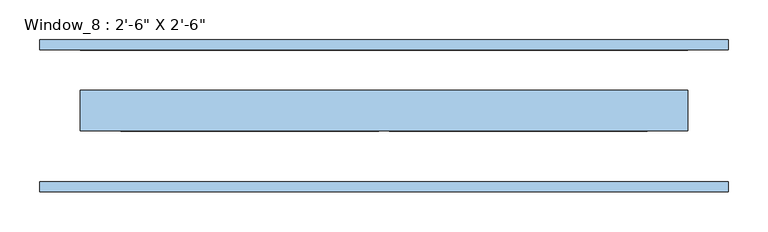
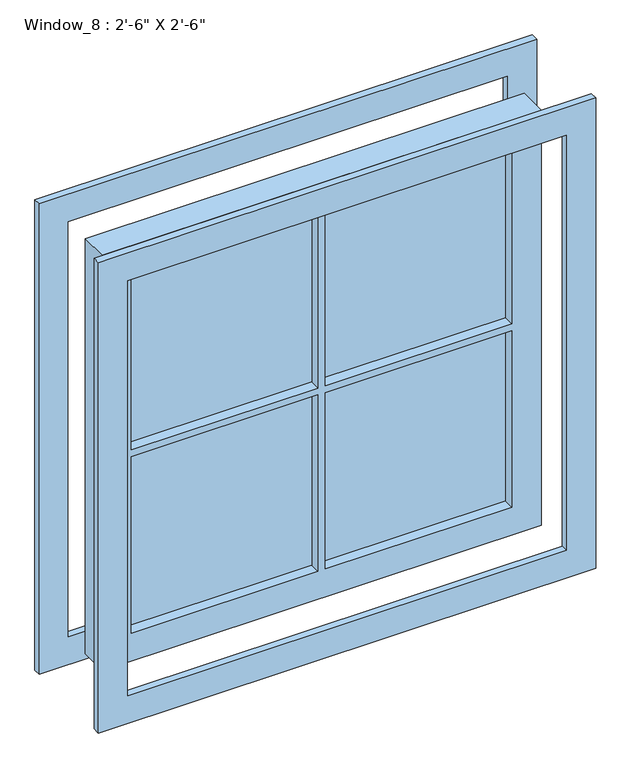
"""IFC4 building model written with IfcOpenShell, lengths in millimetres: window geometry."""

from ifc_helpers import new_model, si_unit, frame, origin, place, context, project, spatial, polyline, outline, extrude, source, transform, mapped, element, save


def window_352ad0ef(model_context):
    return source(origin(), model_context, "Body", "SweptSolid", [
        extrude(outline(polyline([(342.9, 0.0), (19.05, 0.0), (19.05, 12.7), (342.9, 12.7), (342.9, 0.0)])), frame((0.0, 0.0, 863.6), z_axis=(0.0, 0.0, 1.0), x_axis=(1.0, 0.0, 0.0)), (0.0, 0.0, 1.0), 323.85),
        extrude(outline(polyline([(342.9, 0.0), (19.05, 0.0), (19.05, 12.7), (342.9, 12.7), (342.9, 0.0)])), frame((0.0, 0.0, 1200.15), z_axis=(0.0, 0.0, 1.0), x_axis=(1.0, 0.0, 0.0)), (0.0, 0.0, 1.0), 323.85),
        extrude(outline(polyline([(6.35, 0.0), (-317.5, 0.0), (-317.5, 12.7), (6.35, 12.7), (6.35, 0.0)])), frame((0.0, 0.0, 1200.15), z_axis=(0.0, 0.0, 1.0), x_axis=(1.0, 0.0, 0.0)), (0.0, 0.0, 1.0), 323.85),
        extrude(outline(polyline([(6.35, 0.0), (-317.5, 0.0), (-317.5, 12.7), (6.35, 12.7), (6.35, 0.0)])), frame((0.0, 0.0, 863.6), z_axis=(0.0, 0.0, 1.0), x_axis=(1.0, 0.0, 0.0)), (0.0, 0.0, 1.0), 323.85),
        extrude(outline(polyline([(1574.8, -368.3), (812.8, -368.3), (812.8, 393.7), (1574.8, 393.7), (1574.8, -368.3)]), holes=[polyline([(863.6, 19.05), (1187.45, 19.05), (1187.45, 342.9), (863.6, 342.9), (863.6, 19.05)]), polyline([(1187.45, 6.35), (863.6, 6.35), (863.6, -317.5), (1187.45, -317.5), (1187.45, 6.35)]), polyline([(1524.0, 19.05), (1524.0, 342.9), (1200.15, 342.9), (1200.15, 19.05), (1524.0, 19.05)]), polyline([(1200.15, -317.5), (1524.0, -317.5), (1524.0, 6.35), (1200.15, 6.35), (1200.15, -317.5)])]), frame((0.0, -19.05, 0.0), z_axis=(0.0, 1.0, 0.0), x_axis=(0.0, 0.0, 1.0)), (0.0, 0.0, 1.0), 50.8),
        extrude(outline(polyline([(1625.6, -419.1), (762.0, -419.1), (762.0, 444.5), (1625.6, 444.5), (1625.6, -419.1)]), holes=[polyline([(1574.8, -368.3), (1574.8, 393.7), (812.8, 393.7), (812.8, -368.3), (1574.8, -368.3)])]), frame((0.0, 82.55, 0.0), z_axis=(0.0, 1.0, 0.0), x_axis=(0.0, 0.0, 1.0)), (0.0, 0.0, 1.0), 12.7),
        extrude(outline(polyline([(1625.6, -419.1), (762.0, -419.1), (762.0, 444.5), (1625.6, 444.5), (1625.6, -419.1)]), holes=[polyline([(812.8, 393.7), (812.8, -368.3), (1574.8, -368.3), (1574.8, 393.7), (812.8, 393.7)])]), frame((0.0, -95.25, 0.0), z_axis=(0.0, 1.0, 0.0), x_axis=(0.0, 0.0, 1.0)), (0.0, 0.0, 1.0), 12.7),
    ])


if __name__ == "__main__":
    model = new_model("IFC4")
    model_context = context("Model", 3, world=origin())
    ifc_project = project(units=[si_unit("LENGTHUNIT", "METRE", prefix="MILLI")], contexts=[model_context])
    site = spatial("IfcSite", under=ifc_project)
    building = spatial("IfcBuilding", under=site)
    placement = place(None, origin())
    window_shape = window_352ad0ef(model_context)
    element("IfcWindow", 1, ObjectType="Window_8 : 2'-6\" X 2'-6\"", at=placement, inside=building, context=model_context, shape_type="MappedRepresentation", body=[
        mapped(window_shape, transform((0.0, 0.0, 0.0), x_axis=(1.0, 0.0, 0.0), y_axis=(0.0, 1.0, 0.0), z_axis=(0.0, 0.0, 1.0))),
    ])
    save(model, "model.ifc")
